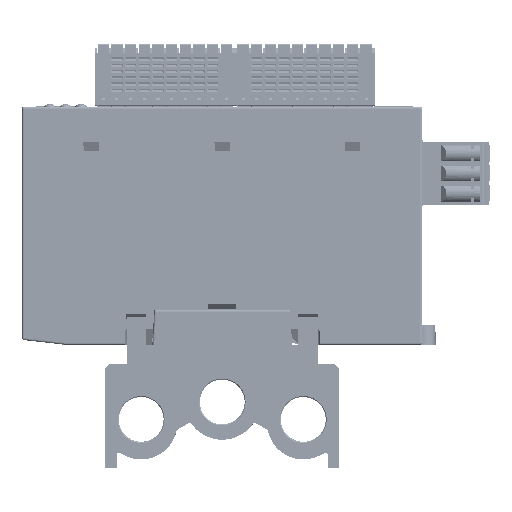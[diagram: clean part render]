
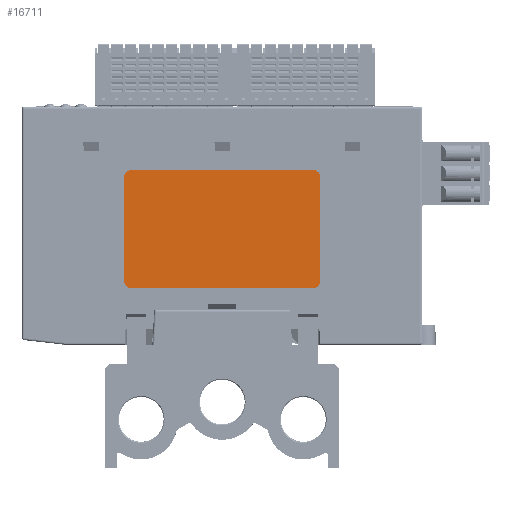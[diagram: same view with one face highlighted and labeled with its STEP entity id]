
A CAD part, front view. The second image highlights one B-rep face of the part: STEP entity #16711.
In plain terms, the highlighted planar face has unit normal (0, -1, 0).
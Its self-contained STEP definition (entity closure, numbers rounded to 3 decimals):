
#7257=FACE_OUTER_BOUND('',#40415,.T.);
#16711=ADVANCED_FACE('',(#7257),#26269,.F.);
#26269=PLANE('',#181329);
#32982=CIRCLE('',#181325,1.8);
#32983=CIRCLE('',#181326,1.8);
#32984=CIRCLE('',#181327,1.8);
#32985=CIRCLE('',#181328,1.8);
#40415=EDGE_LOOP('',(#54304,#54305,#54306,#54307,#54308,#54309,#54310,#54311));
#54304=ORIENTED_EDGE('',*,*,#120969,.F.);
#54305=ORIENTED_EDGE('',*,*,#120974,.T.);
#54306=ORIENTED_EDGE('',*,*,#120975,.F.);
#54307=ORIENTED_EDGE('',*,*,#120976,.T.);
#54308=ORIENTED_EDGE('',*,*,#120971,.F.);
#54309=ORIENTED_EDGE('',*,*,#120977,.T.);
#54310=ORIENTED_EDGE('',*,*,#120965,.F.);
#54311=ORIENTED_EDGE('',*,*,#120978,.T.);
#103684=VERTEX_POINT('',#254634);
#103685=VERTEX_POINT('',#254635);
#103686=VERTEX_POINT('',#254640);
#103687=VERTEX_POINT('',#254642);
#103688=VERTEX_POINT('',#254646);
#103689=VERTEX_POINT('',#254647);
#103690=VERTEX_POINT('',#254652);
#103691=VERTEX_POINT('',#254654);
#120965=EDGE_CURVE('',#103684,#103685,#145402,.T.);
#120969=EDGE_CURVE('',#103686,#103687,#145406,.T.);
#120971=EDGE_CURVE('',#103688,#103689,#145408,.T.);
#120974=EDGE_CURVE('',#103686,#103690,#32982,.T.);
#120975=EDGE_CURVE('',#103691,#103690,#145411,.T.);
#120976=EDGE_CURVE('',#103691,#103689,#32983,.T.);
#120977=EDGE_CURVE('',#103688,#103685,#32984,.T.);
#120978=EDGE_CURVE('',#103684,#103687,#32985,.T.);
#145402=LINE('',#254633,#163368);
#145406=LINE('',#254641,#163372);
#145408=LINE('',#254645,#163374);
#145411=LINE('',#254653,#163377);
#163368=VECTOR('',#199516,1.);
#163372=VECTOR('',#199522,1.);
#163374=VECTOR('',#199526,1.);
#163377=VECTOR('',#199533,1.);
#181325=AXIS2_PLACEMENT_3D('',#254651,#199531,#199532);
#181326=AXIS2_PLACEMENT_3D('',#254655,#199534,#199535);
#181327=AXIS2_PLACEMENT_3D('',#254656,#199536,#199537);
#181328=AXIS2_PLACEMENT_3D('',#254657,#199538,#199539);
#181329=AXIS2_PLACEMENT_3D('',#254658,#199540,#199541);
#199516=DIRECTION('',(0.,0.,-1.));
#199522=DIRECTION('',(1.,0.,0.));
#199526=DIRECTION('',(-1.,0.,0.));
#199531=DIRECTION('',(0.,-1.,0.));
#199532=DIRECTION('',(0.,0.,1.));
#199533=DIRECTION('',(0.,0.,1.));
#199534=DIRECTION('',(0.,-1.,0.));
#199535=DIRECTION('',(0.,0.,-1.));
#199536=DIRECTION('',(0.,-1.,0.));
#199537=DIRECTION('',(0.,0.,-1.));
#199538=DIRECTION('',(0.,-1.,0.));
#199539=DIRECTION('',(0.,0.,-1.));
#199540=DIRECTION('',(0.,1.,0.));
#199541=DIRECTION('',(0.,0.,-1.));
#254633=CARTESIAN_POINT('',(525.15,2297.36,34.634));
#254634=CARTESIAN_POINT('',(525.15,2297.36,47.934));
#254635=CARTESIAN_POINT('',(525.15,2297.36,21.334));
#254640=CARTESIAN_POINT('',(476.75,2297.36,49.734));
#254641=CARTESIAN_POINT('',(500.05,2297.36,49.734));
#254642=CARTESIAN_POINT('',(523.35,2297.36,49.734));
#254645=CARTESIAN_POINT('',(475.05,2297.36,19.534));
#254646=CARTESIAN_POINT('',(523.35,2297.36,19.534));
#254647=CARTESIAN_POINT('',(476.75,2297.36,19.534));
#254651=CARTESIAN_POINT('',(476.75,2297.36,47.934));
#254652=CARTESIAN_POINT('',(474.95,2297.36,47.934));
#254653=CARTESIAN_POINT('',(474.95,2297.36,34.634));
#254654=CARTESIAN_POINT('',(474.95,2297.36,21.334));
#254655=CARTESIAN_POINT('',(476.75,2297.36,21.334));
#254656=CARTESIAN_POINT('',(523.35,2297.36,21.334));
#254657=CARTESIAN_POINT('',(523.35,2297.36,47.934));
#254658=CARTESIAN_POINT('',(500.041,2297.36,23.341));
